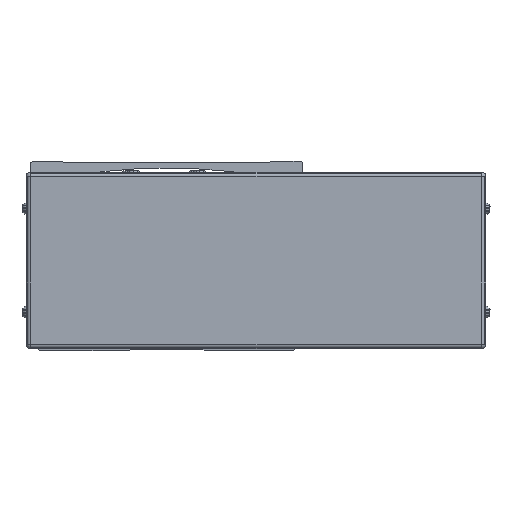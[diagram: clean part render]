
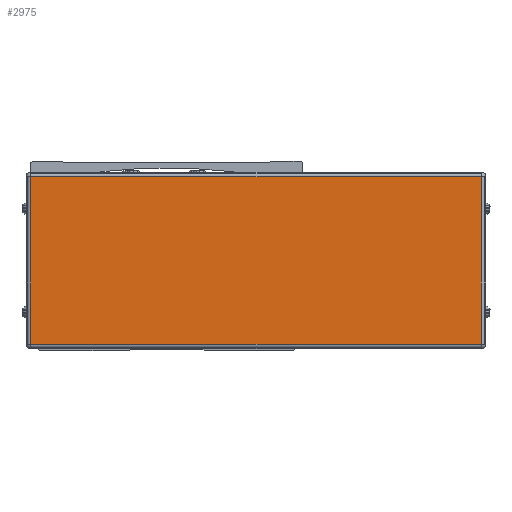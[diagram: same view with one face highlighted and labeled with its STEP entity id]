
A CAD part, front view. The second image highlights one B-rep face of the part: STEP entity #2975.
In plain terms, the highlighted planar face has unit normal (0, -1, 0).
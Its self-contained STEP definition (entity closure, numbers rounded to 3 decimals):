
#2975=ADVANCED_FACE('',(#8109),#8110,.T.);
#8109=FACE_OUTER_BOUND('',#15979,.T.);
#8110=PLANE('',#15980);
#15979=EDGE_LOOP('',(#25565,#25566,#25567,#25568));
#15980=AXIS2_PLACEMENT_3D('',#25569,#25570,#25571);
#25565=ORIENTED_EDGE('',*,*,#47724,.F.);
#25566=ORIENTED_EDGE('',*,*,#47725,.F.);
#25567=ORIENTED_EDGE('',*,*,#47726,.F.);
#25568=ORIENTED_EDGE('',*,*,#47727,.F.);
#25569=CARTESIAN_POINT('',(-259.5,-188.778,-8.));
#25570=DIRECTION('',(0.,-1.0,0.));
#25571=DIRECTION('',(1.0,0.,0.));
#47724=EDGE_CURVE('',#57006,#57007,#57008,.T.);
#47725=EDGE_CURVE('',#57009,#57006,#57010,.T.);
#47726=EDGE_CURVE('',#57011,#57009,#57012,.T.);
#47727=EDGE_CURVE('',#57007,#57011,#57013,.T.);
#57006=VERTEX_POINT('',#70391);
#57007=VERTEX_POINT('',#70392);
#57008=LINE('',#70393,#70394);
#57009=VERTEX_POINT('',#70395);
#57010=LINE('',#70396,#70397);
#57011=VERTEX_POINT('',#70398);
#57012=LINE('',#70399,#70400);
#57013=LINE('',#70401,#70402);
#70391=CARTESIAN_POINT('',(-157.3,-188.778,30.));
#70392=CARTESIAN_POINT('',(-157.3,-188.778,-46.));
#70393=CARTESIAN_POINT('',(-157.3,-188.778,-8.));
#70394=VECTOR('',#88408,10.0);
#70395=CARTESIAN_POINT('',(-361.7,-188.778,30.));
#70396=CARTESIAN_POINT('',(-259.5,-188.778,30.));
#70397=VECTOR('',#88409,10.0);
#70398=CARTESIAN_POINT('',(-361.7,-188.778,-46.));
#70399=CARTESIAN_POINT('',(-361.7,-188.778,-8.));
#70400=VECTOR('',#88410,10.0);
#70401=CARTESIAN_POINT('',(-259.5,-188.778,-46.));
#70402=VECTOR('',#88411,10.0);
#88408=DIRECTION('',(0.0,0.,-1.0));
#88409=DIRECTION('',(1.0,0.,0.));
#88410=DIRECTION('',(0.0,0.,1.0));
#88411=DIRECTION('',(-1.0,0.,0.));
